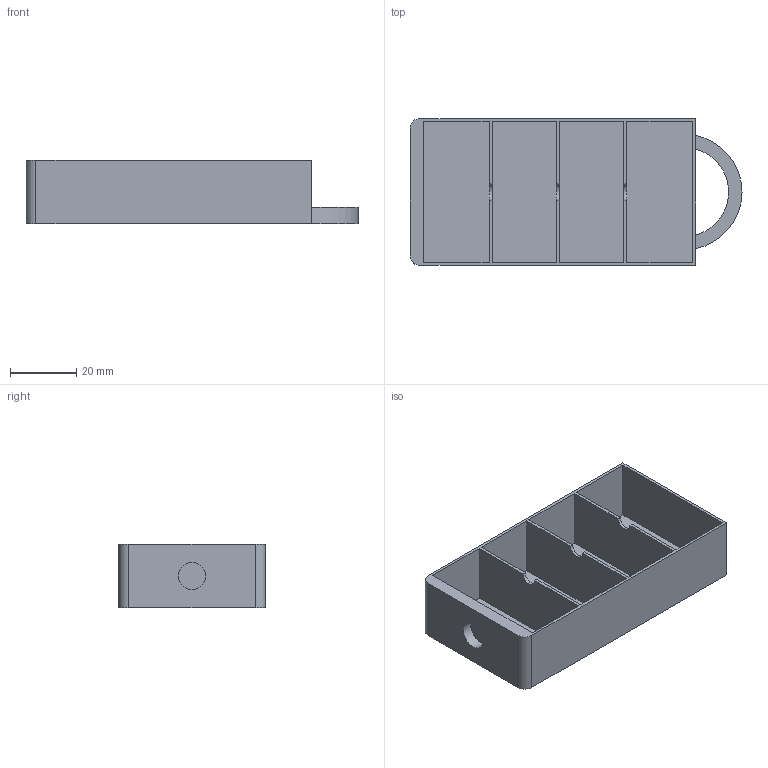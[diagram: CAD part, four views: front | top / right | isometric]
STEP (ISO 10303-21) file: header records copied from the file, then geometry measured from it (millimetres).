
FILE_DESCRIPTION(/* description */ (''),/* implementation_level */ '2;1');
FILE_NAME(/* name */ 'C:/Users/pet3r/Desktop/3D/MOJE/My Drawers/STEP/Drawer 1x1 4-slot.step',/* time_stamp */ '2018-03-31T21:33:43+02:00',/* author */ (''),/* organization */ (''),/* preprocessor_version */ 'ST-DEVELOPER v16.13',/* originating_system */ 'Autodesk Translation Framework v6.5.0.72',/* authorisation */ '');
FILE_SCHEMA (('AUTOMOTIVE_DESIGN { 1 0 10303 214 3 1 1 }'));
Length unit declared in the file: millimetre
Products named in the file (1): Drawer 1x1 4-slot
Bounding box: 100 x 44.2 x 19.2 mm (x, y, z)
Volume: 12708.5 mm3; surface area: 22361.1 mm2
Topology: 1 solids, 1 shells, 36 faces, 99 edges, 66 vertices
Faces by surface type: plane 28, cylinder 8
Full cylindrical faces by diameter (mm): 8.3 x1
Entity records: 1183 total; most frequent: CARTESIAN_POINT 202, ORIENTED_EDGE 198, DIRECTION 189, EDGE_CURVE 99, LINE 83, VECTOR 83, VERTEX_POINT 66, AXIS2_PLACEMENT_3D 53
